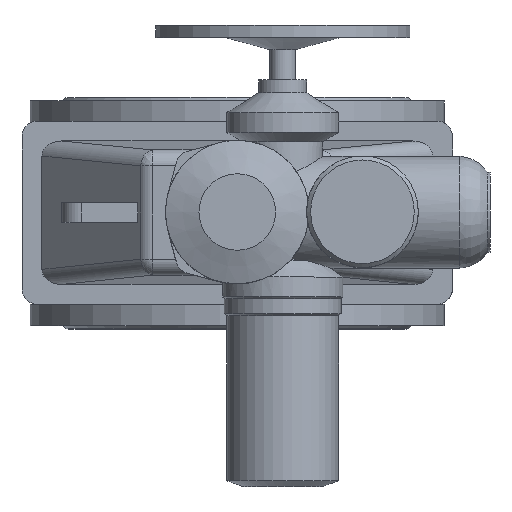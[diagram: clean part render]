
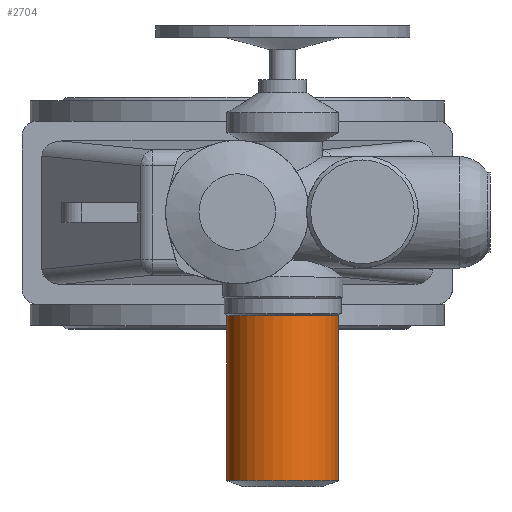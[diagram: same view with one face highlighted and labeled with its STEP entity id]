
A CAD part, top view. The second image highlights one B-rep face of the part: STEP entity #2704.
In plain terms, the highlighted cylindrical face has radius 70 mm (diameter 140 mm), a full revolution.
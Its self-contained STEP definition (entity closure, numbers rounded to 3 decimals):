
#2704=ADVANCED_FACE('',(#6093,#6095),#6097,.T.);
#6093=FACE_OUTER_BOUND('',#6094,.T.);
#6094=EDGE_LOOP('',(#7461));
#6095=FACE_OUTER_BOUND('',#6096,.T.);
#6096=EDGE_LOOP('',(#7462));
#6097=CYLINDRICAL_SURFACE('',#6098,70.);
#6098=AXIS2_PLACEMENT_3D('',#6099,#6100,#6101);
#6099=CARTESIAN_POINT('',(57.,-336.721,807.));
#6100=DIRECTION('',(0.,1.,0.));
#6101=DIRECTION('',(0.,0.,1.));
#7461=ORIENTED_EDGE('',*,*,#8137,.F.);
#7462=ORIENTED_EDGE('',*,*,#8138,.T.);
#8137=EDGE_CURVE('',#9283,#9283,#9284,.T.);
#8138=EDGE_CURVE('',#9285,#9285,#9286,.T.);
#9283=VERTEX_POINT('',#13190);
#9284=CIRCLE('',#13191,70.);
#9285=VERTEX_POINT('',#13195);
#9286=CIRCLE('',#13196,70.);
#13190=CARTESIAN_POINT('',(57.,-129.807,877.));
#13191=AXIS2_PLACEMENT_3D('',#13192,#13193,#13194);
#13192=CARTESIAN_POINT('',(57.,-129.807,807.));
#13193=DIRECTION('',(0.,1.,0.));
#13194=DIRECTION('',(0.,0.,1.));
#13195=CARTESIAN_POINT('',(57.,-336.721,877.));
#13196=AXIS2_PLACEMENT_3D('',#13197,#13198,#13199);
#13197=CARTESIAN_POINT('',(57.,-336.721,807.));
#13198=DIRECTION('',(0.,1.,0.));
#13199=DIRECTION('',(0.,0.,1.));
